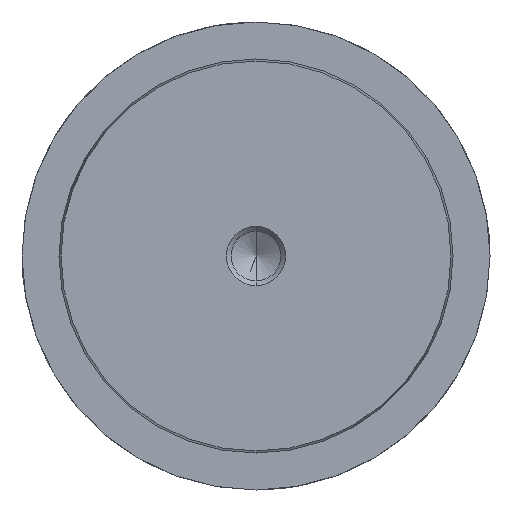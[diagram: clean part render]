
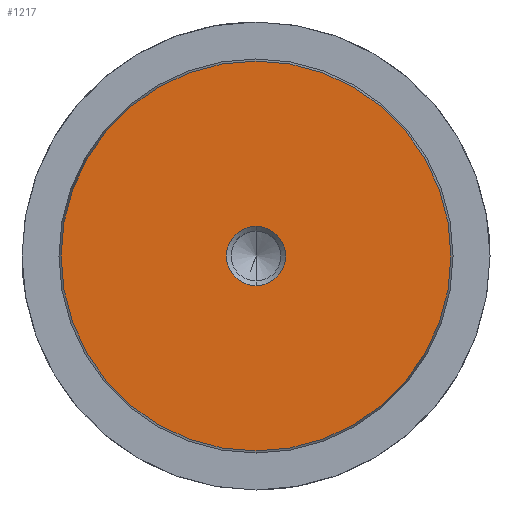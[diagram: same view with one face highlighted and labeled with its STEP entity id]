
A CAD part, left-side view. The second image highlights one B-rep face of the part: STEP entity #1217.
In plain terms, the highlighted planar face has unit normal (-1, 0, 0).
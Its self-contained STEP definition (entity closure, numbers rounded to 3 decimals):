
#1115=CARTESIAN_POINT('Vertex',(0.,0.,-39.578)) ;
#1118=CARTESIAN_POINT('Axis2P3D Location',(0.,0.,0.)) ;
#1122=CARTESIAN_POINT('Vertex',(0.,39.578,0.)) ;
#1125=CARTESIAN_POINT('Axis2P3D Location',(0.,0.,0.)) ;
#1129=CARTESIAN_POINT('Vertex',(0.,0.,39.578)) ;
#1151=CARTESIAN_POINT('Axis2P3D Location',(0.,0.,0.)) ;
#1155=CARTESIAN_POINT('Vertex',(0.,-39.578,0.)) ;
#1158=CARTESIAN_POINT('Axis2P3D Location',(0.,0.,0.)) ;
#1172=CARTESIAN_POINT('Axis2P3D Location',(0.,0.,0.)) ;
#1183=CARTESIAN_POINT('Axis2P3D Location',(0.,0.,0.)) ;
#1187=CARTESIAN_POINT('Vertex',(0.,6.,0.)) ;
#1189=CARTESIAN_POINT('Vertex',(0.,0.,6.)) ;
#1192=CARTESIAN_POINT('Axis2P3D Location',(0.,0.,0.)) ;
#1196=CARTESIAN_POINT('Vertex',(0.,-6.,0.)) ;
#1199=CARTESIAN_POINT('Axis2P3D Location',(0.,0.,0.)) ;
#1203=CARTESIAN_POINT('Vertex',(0.,0.,-6.)) ;
#1206=CARTESIAN_POINT('Axis2P3D Location',(0.,0.,0.)) ;
#1119=DIRECTION('Axis2P3D Direction',(1.,0.,-0.)) ;
#1126=DIRECTION('Axis2P3D Direction',(1.,0.,-0.)) ;
#1152=DIRECTION('Axis2P3D Direction',(1.,0.,-0.)) ;
#1159=DIRECTION('Axis2P3D Direction',(1.,0.,-0.)) ;
#1173=DIRECTION('Axis2P3D Direction',(1.,0.,-0.)) ;
#1174=DIRECTION('Axis2P3D XDirection',(-0.,0.,-1.)) ;
#1184=DIRECTION('Axis2P3D Direction',(1.,0.,-0.)) ;
#1193=DIRECTION('Axis2P3D Direction',(1.,0.,-0.)) ;
#1200=DIRECTION('Axis2P3D Direction',(1.,0.,-0.)) ;
#1207=DIRECTION('Axis2P3D Direction',(1.,0.,-0.)) ;
#1120=AXIS2_PLACEMENT_3D('Circle Axis2P3D',#1118,#1119,$) ;
#1127=AXIS2_PLACEMENT_3D('Circle Axis2P3D',#1125,#1126,$) ;
#1153=AXIS2_PLACEMENT_3D('Circle Axis2P3D',#1151,#1152,$) ;
#1160=AXIS2_PLACEMENT_3D('Circle Axis2P3D',#1158,#1159,$) ;
#1175=AXIS2_PLACEMENT_3D('Plane Axis2P3D',#1172,#1173,#1174) ;
#1185=AXIS2_PLACEMENT_3D('Circle Axis2P3D',#1183,#1184,$) ;
#1194=AXIS2_PLACEMENT_3D('Circle Axis2P3D',#1192,#1193,$) ;
#1201=AXIS2_PLACEMENT_3D('Circle Axis2P3D',#1199,#1200,$) ;
#1208=AXIS2_PLACEMENT_3D('Circle Axis2P3D',#1206,#1207,$) ;
#1178=ORIENTED_EDGE('',*,*,#1124,.F.) ;
#1179=ORIENTED_EDGE('',*,*,#1162,.F.) ;
#1180=ORIENTED_EDGE('',*,*,#1157,.F.) ;
#1181=ORIENTED_EDGE('',*,*,#1131,.F.) ;
#1212=ORIENTED_EDGE('',*,*,#1191,.T.) ;
#1213=ORIENTED_EDGE('',*,*,#1198,.T.) ;
#1214=ORIENTED_EDGE('',*,*,#1205,.T.) ;
#1215=ORIENTED_EDGE('',*,*,#1210,.T.) ;
#1216=FACE_BOUND('',#1211,.T.) ;
#1217=ADVANCED_FACE('718-80x315',(#1182,#1216),#1176,.F.) ;
#1121=CIRCLE('generated circle',#1120,39.578) ;
#1128=CIRCLE('generated circle',#1127,39.578) ;
#1154=CIRCLE('generated circle',#1153,39.578) ;
#1161=CIRCLE('generated circle',#1160,39.578) ;
#1186=CIRCLE('generated circle',#1185,6.) ;
#1195=CIRCLE('generated circle',#1194,6.) ;
#1202=CIRCLE('generated circle',#1201,6.) ;
#1209=CIRCLE('generated circle',#1208,6.) ;
#1124=EDGE_CURVE('',#1116,#1123,#1121,.T.) ;
#1131=EDGE_CURVE('',#1123,#1130,#1128,.T.) ;
#1157=EDGE_CURVE('',#1130,#1156,#1154,.T.) ;
#1162=EDGE_CURVE('',#1156,#1116,#1161,.T.) ;
#1191=EDGE_CURVE('',#1188,#1190,#1186,.T.) ;
#1198=EDGE_CURVE('',#1190,#1197,#1195,.T.) ;
#1205=EDGE_CURVE('',#1197,#1204,#1202,.T.) ;
#1210=EDGE_CURVE('',#1204,#1188,#1209,.T.) ;
#1177=EDGE_LOOP('',(#1178,#1179,#1180,#1181)) ;
#1211=EDGE_LOOP('',(#1212,#1213,#1214,#1215)) ;
#1182=FACE_OUTER_BOUND('',#1177,.T.) ;
#1176=PLANE('Plane',#1175) ;
#1116=VERTEX_POINT('',#1115) ;
#1123=VERTEX_POINT('',#1122) ;
#1130=VERTEX_POINT('',#1129) ;
#1156=VERTEX_POINT('',#1155) ;
#1188=VERTEX_POINT('',#1187) ;
#1190=VERTEX_POINT('',#1189) ;
#1197=VERTEX_POINT('',#1196) ;
#1204=VERTEX_POINT('',#1203) ;
